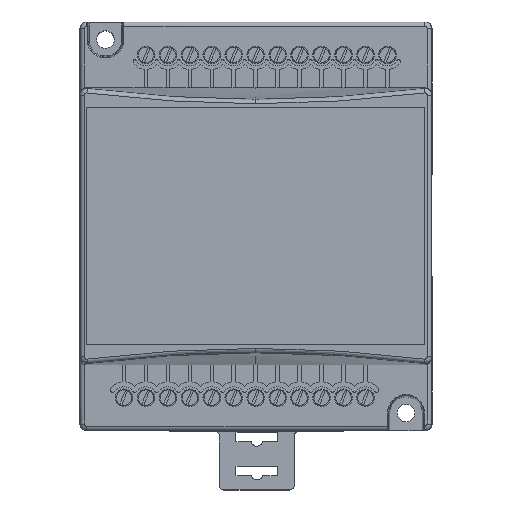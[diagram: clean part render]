
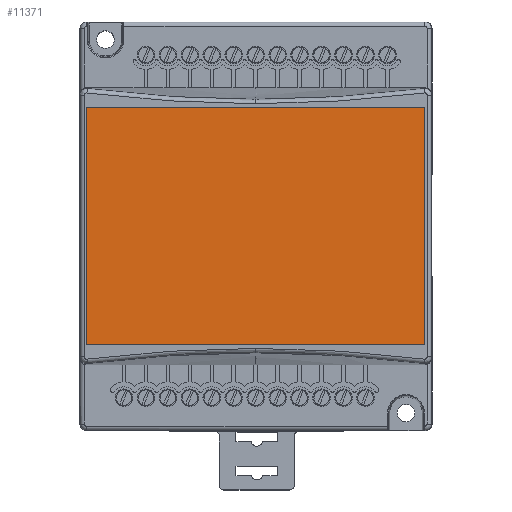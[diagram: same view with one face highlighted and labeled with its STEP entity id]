
A CAD part, top view. The second image highlights one B-rep face of the part: STEP entity #11371.
In plain terms, the highlighted planar face has unit normal (0, 0, 1).
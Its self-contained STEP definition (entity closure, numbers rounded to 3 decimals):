
#11371 = ADVANCED_FACE ( 'NONE', ( #42717 ), #41775, .F. ) ;
#12449 = EDGE_LOOP ( 'NONE', ( #16376, #16378, #16377, #16379 ) ) ;
#14220 = EDGE_CURVE ( 'NONE', #19690, #19692, #53014, .T. ) ;
#14221 = EDGE_CURVE ( 'NONE', #19689, #19690, #53015, .T. ) ;
#14222 = EDGE_CURVE ( 'NONE', #19692, #19693, #53016, .T. ) ;
#14223 = EDGE_CURVE ( 'NONE', #19693, #19689, #53017, .T. ) ;
#16376 = ORIENTED_EDGE ( 'NONE', *, *, #14221, .T. ) ;
#16377 = ORIENTED_EDGE ( 'NONE', *, *, #14222, .T. ) ;
#16378 = ORIENTED_EDGE ( 'NONE', *, *, #14220, .T. ) ;
#16379 = ORIENTED_EDGE ( 'NONE', *, *, #14223, .T. ) ;
#19689 = VERTEX_POINT ( 'NONE', #58854 ) ;
#19690 = VERTEX_POINT ( 'NONE', #58855 ) ;
#19692 = VERTEX_POINT ( 'NONE', #58856 ) ;
#19693 = VERTEX_POINT ( 'NONE', #58857 ) ;
#40922 = AXIS2_PLACEMENT_3D ( 'NONE', #41776, #41777, #41778 ) ;
#41775 = PLANE ( 'NONE',  #40922 ) ;
#41776 = CARTESIAN_POINT ( 'NONE',  ( 18.676, -396.029, 196.512 ) ) ;
#41777 = DIRECTION ( 'NONE',  ( 0., 0., -1. ) ) ;
#41778 = DIRECTION ( 'NONE',  ( -1., 0., 0. ) ) ;
#42717 = FACE_OUTER_BOUND ( 'NONE', #12449, .T. ) ;
#51841 = CARTESIAN_POINT ( 'NONE',  ( -58.324, -396.029, 196.512 ) ) ;
#51842 = DIRECTION ( 'NONE',  ( -1., 0., 0. ) ) ;
#51843 = CARTESIAN_POINT ( 'NONE',  ( 18.676, -450.029, 196.512 ) ) ;
#51844 = DIRECTION ( 'NONE',  ( 0., 1., 0. ) ) ;
#51845 = CARTESIAN_POINT ( 'NONE',  ( -58.324, -396.029, 196.512 ) ) ;
#51846 = DIRECTION ( 'NONE',  ( 0., -1., 0. ) ) ;
#51847 = CARTESIAN_POINT ( 'NONE',  ( -58.324, -450.029, 196.512 ) ) ;
#51848 = DIRECTION ( 'NONE',  ( 1., 0., 0. ) ) ;
#52459 = VECTOR ( 'NONE', #51842, 1000. ) ;
#52460 = VECTOR ( 'NONE', #51844, 1000. ) ;
#52461 = VECTOR ( 'NONE', #51846, 1000. ) ;
#52462 = VECTOR ( 'NONE', #51848, 1000. ) ;
#53014 = LINE ( 'NONE', #51841, #52459 ) ;
#53015 = LINE ( 'NONE', #51843, #52460 ) ;
#53016 = LINE ( 'NONE', #51845, #52461 ) ;
#53017 = LINE ( 'NONE', #51847, #52462 ) ;
#58854 = CARTESIAN_POINT ( 'NONE',  ( 18.676, -450.029, 196.512 ) ) ;
#58855 = CARTESIAN_POINT ( 'NONE',  ( 18.676, -396.029, 196.512 ) ) ;
#58856 = CARTESIAN_POINT ( 'NONE',  ( -58.324, -396.029, 196.512 ) ) ;
#58857 = CARTESIAN_POINT ( 'NONE',  ( -58.324, -450.029, 196.512 ) ) ;
